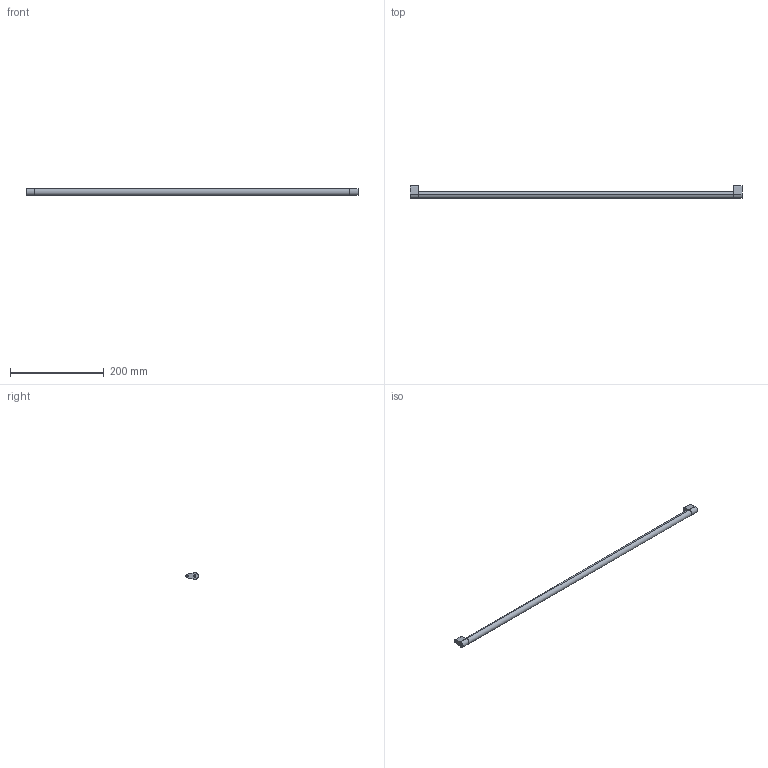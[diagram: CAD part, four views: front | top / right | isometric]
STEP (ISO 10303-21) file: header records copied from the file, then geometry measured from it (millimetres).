
FILE_DESCRIPTION (( 'STEP AP214' ), '1' );
FILE_NAME ('_Synchronisationseinheit Nova Pro KAB800_S19.step', '2010-07-08T13:58:46', ( 'grass' ), ( '' ), 'SwSTEP 2.0', 'SolidWorks 2010', '' );
FILE_SCHEMA (( 'AUTOMOTIVE_DESIGN' ));
Length unit declared in the file: millimetre
Products named in the file (1): _Synchronisationseinheit Nova Pro KAB800_S19
Bounding box: 709 x 26.5 x 14 mm (x, y, z)
Volume: 112828.9 mm3; surface area: 34030.4 mm2
Topology: 3 solids, 3 shells, 36 faces, 78 edges, 52 vertices
Faces by surface type: cylinder 18, plane 18
Entity records: 1050 total; most frequent: DIRECTION 188, CARTESIAN_POINT 167, ORIENTED_EDGE 156, EDGE_CURVE 78, AXIS2_PLACEMENT_3D 73, VERTEX_POINT 52, VECTOR 42, LINE 42
